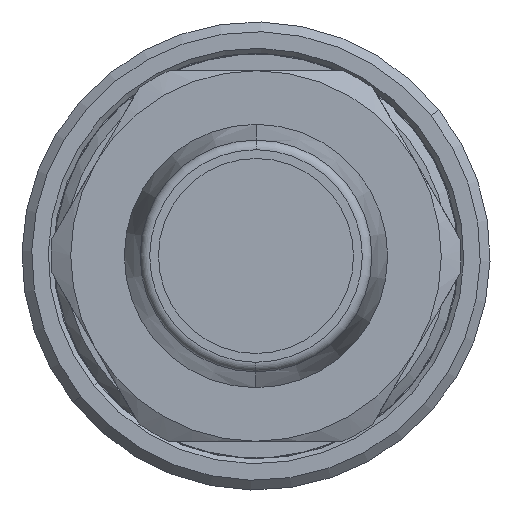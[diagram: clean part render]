
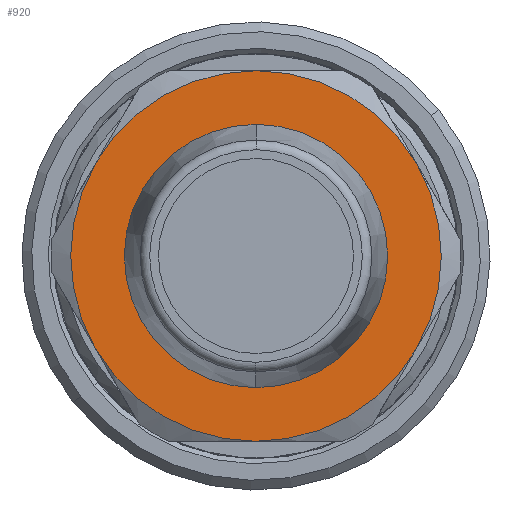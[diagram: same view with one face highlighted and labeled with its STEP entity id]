
A CAD part, front view. The second image highlights one B-rep face of the part: STEP entity #920.
In plain terms, the highlighted planar face has unit normal (0, -1, 0).
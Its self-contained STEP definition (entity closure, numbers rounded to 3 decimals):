
#920 = ADVANCED_FACE ( 'NONE', ( #6821, #6822 ), #7959, .F. ) ;
#1136 = ORIENTED_EDGE ( 'NONE', *, *, #7183, .F. ) ;
#1137 = ORIENTED_EDGE ( 'NONE', *, *, #7179, .F. ) ;
#1138 = ORIENTED_EDGE ( 'NONE', *, *, #7175, .F. ) ;
#1139 = ORIENTED_EDGE ( 'NONE', *, *, #7187, .F. ) ;
#1140 = ORIENTED_EDGE ( 'NONE', *, *, #7195, .F. ) ;
#1141 = ORIENTED_EDGE ( 'NONE', *, *, #7191, .F. ) ;
#1142 = ORIENTED_EDGE ( 'NONE', *, *, #7196, .T. ) ;
#1824 = VERTEX_POINT ( 'NONE', #2407 ) ;
#1827 = VERTEX_POINT ( 'NONE', #2410 ) ;
#1829 = VERTEX_POINT ( 'NONE', #2412 ) ;
#1831 = VERTEX_POINT ( 'NONE', #2414 ) ;
#1833 = VERTEX_POINT ( 'NONE', #2416 ) ;
#1835 = VERTEX_POINT ( 'NONE', #2418 ) ;
#1838 = VERTEX_POINT ( 'NONE', #2421 ) ;
#1842 = VERTEX_POINT ( 'NONE', #2425 ) ;
#2407 = CARTESIAN_POINT ( 'NONE',  ( 46.865, -78.572, 10.673 ) ) ;
#2410 = CARTESIAN_POINT ( 'NONE',  ( 46.845, -78.572, -2.327 ) ) ;
#2412 = CARTESIAN_POINT ( 'NONE',  ( 55.075, -78.572, -0.59 ) ) ;
#2414 = CARTESIAN_POINT ( 'NONE',  ( 55.09, -78.572, 8.91 ) ) ;
#2416 = CARTESIAN_POINT ( 'NONE',  ( 46.84, -78.572, -5.327 ) ) ;
#2418 = CARTESIAN_POINT ( 'NONE',  ( 38.62, -78.572, -0.564 ) ) ;
#2421 = CARTESIAN_POINT ( 'NONE',  ( 46.87, -78.572, 13.673 ) ) ;
#2425 = CARTESIAN_POINT ( 'NONE',  ( 38.635, -78.572, 8.936 ) ) ;
#4142 = AXIS2_PLACEMENT_3D ( 'NONE', #7966, #7967, #7968 ) ;
#4921 = EDGE_LOOP ( 'NONE', ( #1136, #1137, #1138, #1139, #1140, #1141 ) ) ;
#4923 = EDGE_LOOP ( 'NONE', ( #1142, #8718 ) ) ;
#5420 = CARTESIAN_POINT ( 'NONE',  ( 46.855, -78.572, 4.173 ) ) ;
#5421 = DIRECTION ( 'NONE',  ( 0., 1., 0. ) ) ;
#5422 = DIRECTION ( 'NONE',  ( -0.002, 0., -1. ) ) ;
#5447 = CARTESIAN_POINT ( 'NONE',  ( 46.855, -78.572, 4.173 ) ) ;
#5448 = DIRECTION ( 'NONE',  ( 0., 1., 0. ) ) ;
#5449 = DIRECTION ( 'NONE',  ( -0.002, 0., -1. ) ) ;
#5467 = CARTESIAN_POINT ( 'NONE',  ( 46.855, -78.572, 4.173 ) ) ;
#5468 = DIRECTION ( 'NONE',  ( 0., 1., 0. ) ) ;
#5469 = DIRECTION ( 'NONE',  ( -0.002, 0., -1. ) ) ;
#5485 = CARTESIAN_POINT ( 'NONE',  ( 46.855, -78.572, 4.173 ) ) ;
#5486 = DIRECTION ( 'NONE',  ( 0., 1., 0. ) ) ;
#5487 = DIRECTION ( 'NONE',  ( -0.002, 0., -1. ) ) ;
#5505 = CARTESIAN_POINT ( 'NONE',  ( 46.855, -78.572, 4.173 ) ) ;
#5506 = DIRECTION ( 'NONE',  ( 0., 1., 0. ) ) ;
#5507 = DIRECTION ( 'NONE',  ( -0.002, 0., -1. ) ) ;
#5527 = CARTESIAN_POINT ( 'NONE',  ( 46.855, -78.572, 4.173 ) ) ;
#5528 = DIRECTION ( 'NONE',  ( 0., 1., 0. ) ) ;
#5529 = DIRECTION ( 'NONE',  ( -0.002, 0., -1. ) ) ;
#5545 = CARTESIAN_POINT ( 'NONE',  ( 46.855, -78.572, 4.173 ) ) ;
#5546 = DIRECTION ( 'NONE',  ( 0., 1., 0. ) ) ;
#5547 = DIRECTION ( 'NONE',  ( -0.002, 0., -1. ) ) ;
#5548 = CARTESIAN_POINT ( 'NONE',  ( 46.855, -78.572, 4.173 ) ) ;
#5549 = DIRECTION ( 'NONE',  ( 0., 1., 0. ) ) ;
#5550 = DIRECTION ( 'NONE',  ( -0.002, 0., -1. ) ) ;
#6431 = CIRCLE ( 'NONE', #6721, 6.5 ) ;
#6437 = CIRCLE ( 'NONE', #6726, 9.5 ) ;
#6440 = CIRCLE ( 'NONE', #6737, 6.5 ) ;
#6441 = CIRCLE ( 'NONE', #6728, 9.5 ) ;
#6442 = CIRCLE ( 'NONE', #6732, 9.5 ) ;
#6443 = CIRCLE ( 'NONE', #6730, 9.5 ) ;
#6447 = CIRCLE ( 'NONE', #6734, 9.5 ) ;
#6449 = CIRCLE ( 'NONE', #6736, 9.5 ) ;
#6721 = AXIS2_PLACEMENT_3D ( 'NONE', #5420, #5421, #5422 ) ;
#6726 = AXIS2_PLACEMENT_3D ( 'NONE', #5447, #5448, #5449 ) ;
#6728 = AXIS2_PLACEMENT_3D ( 'NONE', #5467, #5468, #5469 ) ;
#6730 = AXIS2_PLACEMENT_3D ( 'NONE', #5485, #5486, #5487 ) ;
#6732 = AXIS2_PLACEMENT_3D ( 'NONE', #5505, #5506, #5507 ) ;
#6734 = AXIS2_PLACEMENT_3D ( 'NONE', #5527, #5528, #5529 ) ;
#6736 = AXIS2_PLACEMENT_3D ( 'NONE', #5545, #5546, #5547 ) ;
#6737 = AXIS2_PLACEMENT_3D ( 'NONE', #5548, #5549, #5550 ) ;
#6821 = FACE_OUTER_BOUND ( 'NONE', #4921, .T. ) ;
#6822 = FACE_BOUND ( 'NONE', #4923, .T. ) ;
#7168 = EDGE_CURVE ( 'NONE', #1824, #1827, #6431, .T. ) ;
#7175 = EDGE_CURVE ( 'NONE', #1831, #1829, #6437, .T. ) ;
#7179 = EDGE_CURVE ( 'NONE', #1829, #1833, #6441, .T. ) ;
#7183 = EDGE_CURVE ( 'NONE', #1833, #1835, #6443, .T. ) ;
#7187 = EDGE_CURVE ( 'NONE', #1838, #1831, #6442, .T. ) ;
#7191 = EDGE_CURVE ( 'NONE', #1835, #1842, #6447, .T. ) ;
#7195 = EDGE_CURVE ( 'NONE', #1842, #1838, #6449, .T. ) ;
#7196 = EDGE_CURVE ( 'NONE', #1827, #1824, #6440, .T. ) ;
#7959 = PLANE ( 'NONE',  #4142 ) ;
#7966 = CARTESIAN_POINT ( 'NONE',  ( 37.355, -78.572, 4.188 ) ) ;
#7967 = DIRECTION ( 'NONE',  ( 0., 1., 0. ) ) ;
#7968 = DIRECTION ( 'NONE',  ( -0.002, 0., -1. ) ) ;
#8718 = ORIENTED_EDGE ( 'NONE', *, *, #7168, .T. ) ;
